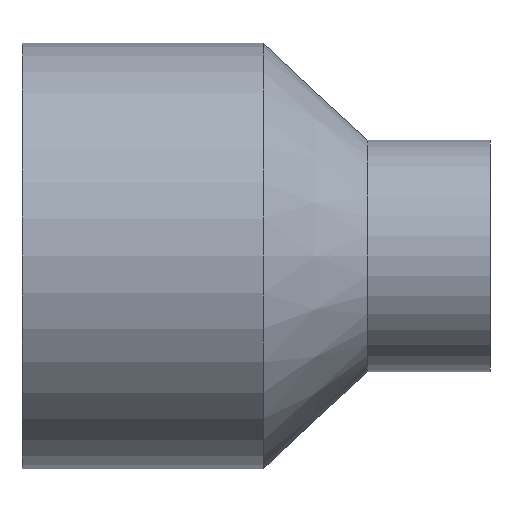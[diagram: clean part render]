
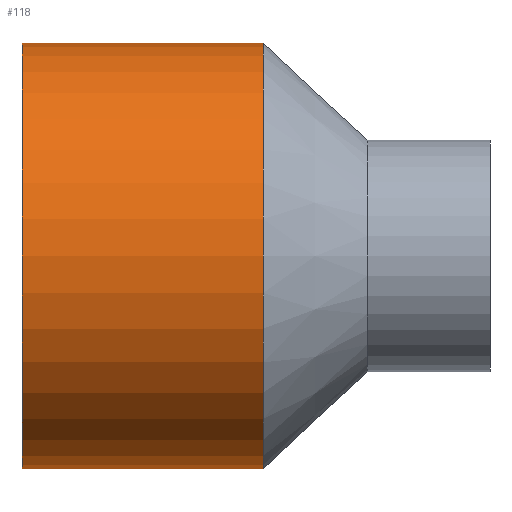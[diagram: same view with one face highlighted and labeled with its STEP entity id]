
A CAD part, front view. The second image highlights one B-rep face of the part: STEP entity #118.
In plain terms, the highlighted cylindrical face has radius 45 mm (diameter 90 mm), a full revolution.
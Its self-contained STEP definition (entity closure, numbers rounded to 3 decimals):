
#18=CYLINDRICAL_SURFACE('',#134,45.);
#25=FACE_BOUND('',#49,.T.);
#35=FACE_OUTER_BOUND('',#48,.T.);
#48=EDGE_LOOP('',(#98));
#49=EDGE_LOOP('',(#99));
#65=CIRCLE('',#133,45.);
#66=CIRCLE('',#135,45.);
#75=VERTEX_POINT('',#199);
#76=VERTEX_POINT('',#202);
#85=EDGE_CURVE('',#75,#75,#65,.T.);
#86=EDGE_CURVE('',#76,#76,#66,.T.);
#98=ORIENTED_EDGE('',*,*,#85,.T.);
#99=ORIENTED_EDGE('',*,*,#86,.F.);
#118=ADVANCED_FACE('',(#35,#25),#18,.T.);
#133=AXIS2_PLACEMENT_3D('',#200,#161,#162);
#134=AXIS2_PLACEMENT_3D('',#201,#163,#164);
#135=AXIS2_PLACEMENT_3D('',#203,#165,#166);
#161=DIRECTION('center_axis',(-1.,0.,0.));
#162=DIRECTION('ref_axis',(0.,0.,1.));
#163=DIRECTION('center_axis',(-1.,0.,0.));
#164=DIRECTION('ref_axis',(0.,-1.,0.));
#165=DIRECTION('center_axis',(-1.,0.,0.));
#166=DIRECTION('ref_axis',(0.,0.,1.));
#199=CARTESIAN_POINT('',(1.5,-45.,0.));
#200=CARTESIAN_POINT('Origin',(1.5,0.,0.));
#201=CARTESIAN_POINT('Origin',(-24.,0.,0.));
#202=CARTESIAN_POINT('',(-49.5,-45.,0.));
#203=CARTESIAN_POINT('Origin',(-49.5,0.,0.));
